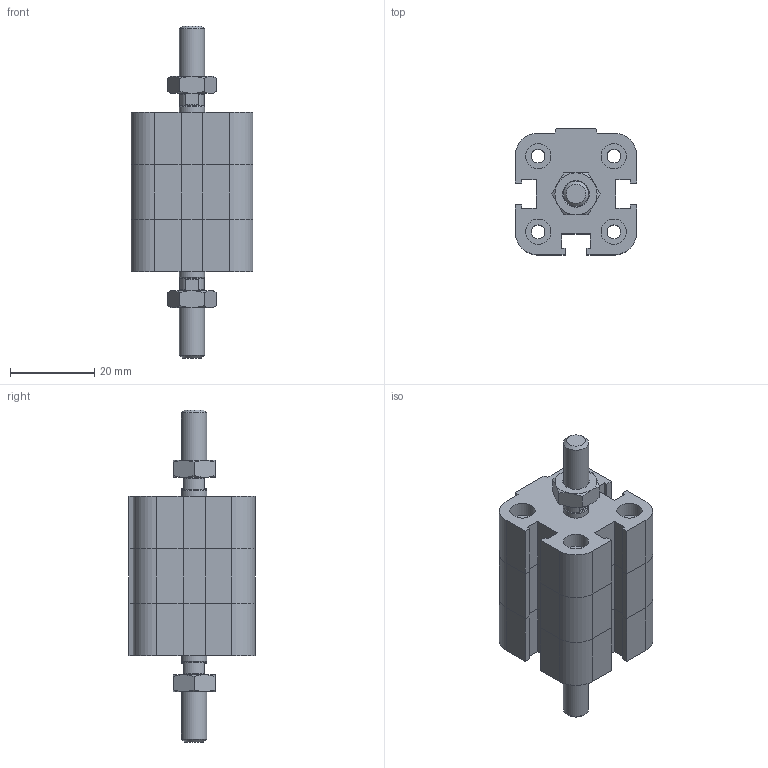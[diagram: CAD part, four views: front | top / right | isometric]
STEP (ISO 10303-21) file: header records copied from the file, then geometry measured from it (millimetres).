
FILE_DESCRIPTION((''),'2;1');
FILE_NAME('I:\Area Tecnica\Disegni\VARIE-3D\Componenti\EUROPE\15##_###_####_04_#\1581_12_0000_04_1.iam.stp','2009-04-20T14:49:04',(''),(''),'Autodesk Inventor 2009','Autodesk Inventor 2009','');
FILE_SCHEMA(('AUTOMOTIVE_DESIGN { 1 0 10303 214 1 1 1 1 }'));
Length unit declared in the file: millimetre
Products named in the file (4): 1581_12_0000_04_1; 1581_12_0000_03_1_C; 1561_12_0000_04_1_S; DBM6
Assembly tree (4 placements, depth 2):
  1581_12_0000_04_1
    1581_12_0000_03_1_C
    1561_12_0000_04_1_S
    DBM6  x2
Bounding box: 29 x 30 x 79 mm (x, y, z)
Volume: 27420 mm3; surface area: 11768 mm2
Topology: 4 solids, 4 shells, 212 faces, 471 edges, 277 vertices
Faces by surface type: plane 127, cone 35, bspline 29, cylinder 21
Full cylindrical faces by diameter (mm): 5 x1, 5.8 x2, 6 x6
Entity records: 5307 total; most frequent: CARTESIAN_POINT 1192, DIRECTION 782, ORIENTED_EDGE 768, EDGE_CURVE 384, VECTOR 262, LINE 262, AXIS2_PLACEMENT_3D 260, VERTEX_POINT 242
